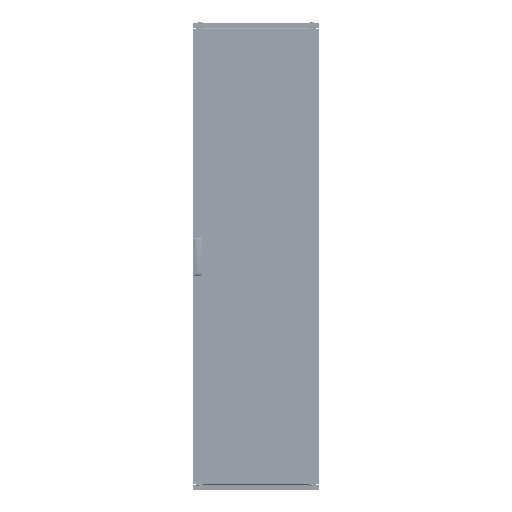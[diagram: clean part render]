
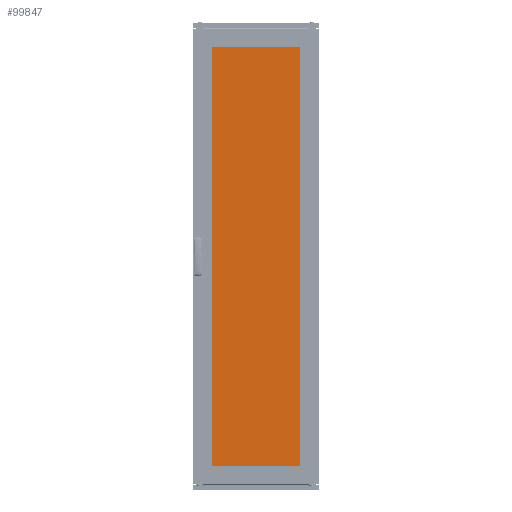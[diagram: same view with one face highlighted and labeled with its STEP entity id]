
A CAD part, top view. The second image highlights one B-rep face of the part: STEP entity #99847.
In plain terms, the highlighted planar face has unit normal (0, 0, 1).
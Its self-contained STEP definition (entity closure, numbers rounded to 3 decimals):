
#6208 = EDGE_LOOP ( 'NONE', ( #36762, #127868, #177902, #107284 ) ) ;
#18656 = CARTESIAN_POINT ( 'NONE',  ( -230., -1010., 5. ) ) ;
#22405 = VECTOR ( 'NONE', #196648, 1000. ) ;
#26147 = VERTEX_POINT ( 'NONE', #18656 ) ;
#32621 = AXIS2_PLACEMENT_3D ( 'NONE', #55613, #71620, #125305 ) ;
#36762 = ORIENTED_EDGE ( 'NONE', *, *, #126417, .T. ) ;
#37739 = DIRECTION ( 'NONE',  ( 1., 0., 0. ) ) ;
#55171 = CARTESIAN_POINT ( 'NONE',  ( 230., -1010., 5. ) ) ;
#55613 = CARTESIAN_POINT ( 'NONE',  ( 0., 0., 5. ) ) ;
#71620 = DIRECTION ( 'NONE',  ( 0., 0., -1. ) ) ;
#75365 = VECTOR ( 'NONE', #37739, 1000. ) ;
#97159 = CARTESIAN_POINT ( 'NONE',  ( -230., 1010., 5. ) ) ;
#99847 = ADVANCED_FACE ( 'NONE', ( #212183 ), #160764, .F. ) ;
#107284 = ORIENTED_EDGE ( 'NONE', *, *, #125027, .T. ) ;
#107742 = LINE ( 'NONE', #55171, #112272 ) ;
#112272 = VECTOR ( 'NONE', #177491, 1000. ) ;
#125027 = EDGE_CURVE ( 'NONE', #26147, #144717, #177193, .T. ) ;
#125305 = DIRECTION ( 'NONE',  ( -1., 0., 0. ) ) ;
#126417 = EDGE_CURVE ( 'NONE', #144717, #128172, #107742, .T. ) ;
#127868 = ORIENTED_EDGE ( 'NONE', *, *, #153648, .T. ) ;
#128172 = VERTEX_POINT ( 'NONE', #219055 ) ;
#138708 = CARTESIAN_POINT ( 'NONE',  ( 230., -1010., 5. ) ) ;
#144717 = VERTEX_POINT ( 'NONE', #138708 ) ;
#145212 = LINE ( 'NONE', #97159, #22405 ) ;
#146500 = CARTESIAN_POINT ( 'NONE',  ( -230., 1010., 5. ) ) ;
#153648 = EDGE_CURVE ( 'NONE', #128172, #189118, #145212, .T. ) ;
#160764 = PLANE ( 'NONE',  #32621 ) ;
#167556 = DIRECTION ( 'NONE',  ( 0., -1., 0. ) ) ;
#168660 = CARTESIAN_POINT ( 'NONE',  ( -230., -1010., 5. ) ) ;
#169775 = LINE ( 'NONE', #168660, #176060 ) ;
#176060 = VECTOR ( 'NONE', #167556, 1000. ) ;
#177193 = LINE ( 'NONE', #222128, #75365 ) ;
#177491 = DIRECTION ( 'NONE',  ( 0., 1., 0. ) ) ;
#177902 = ORIENTED_EDGE ( 'NONE', *, *, #221386, .T. ) ;
#189118 = VERTEX_POINT ( 'NONE', #146500 ) ;
#196648 = DIRECTION ( 'NONE',  ( -1., 0., 0. ) ) ;
#212183 = FACE_OUTER_BOUND ( 'NONE', #6208, .T. ) ;
#219055 = CARTESIAN_POINT ( 'NONE',  ( 230., 1010., 5. ) ) ;
#221386 = EDGE_CURVE ( 'NONE', #189118, #26147, #169775, .T. ) ;
#222128 = CARTESIAN_POINT ( 'NONE',  ( -230., -1010., 5. ) ) ;
